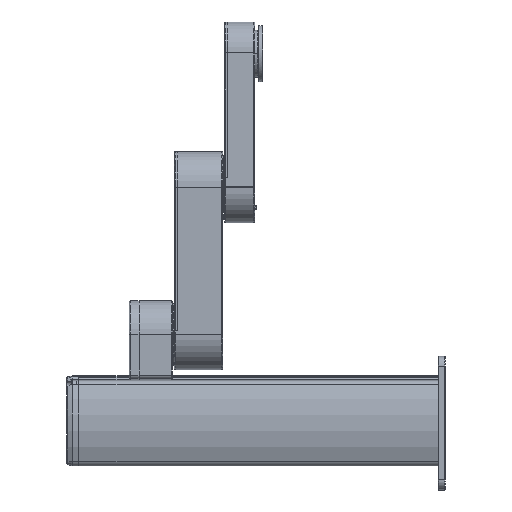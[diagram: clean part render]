
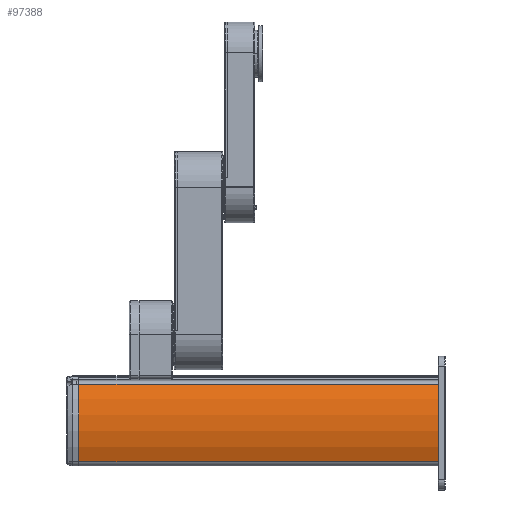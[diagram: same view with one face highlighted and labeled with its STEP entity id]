
A CAD part, left-side view. The second image highlights one B-rep face of the part: STEP entity #97388.
In plain terms, the highlighted cylindrical face has radius 140 mm (diameter 280 mm), a partial arc.
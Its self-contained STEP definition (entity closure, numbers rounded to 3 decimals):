
#476 = EDGE_CURVE ( 'NONE', #102430, #85273, #61994, .T. ) ;
#1791 = FACE_OUTER_BOUND ( 'NONE', #14843, .T. ) ;
#2207 = VERTEX_POINT ( 'NONE', #51725 ) ;
#2491 = VECTOR ( 'NONE', #30887, 1000. ) ;
#4472 = CIRCLE ( 'NONE', #37846, 140. ) ;
#4645 = ORIENTED_EDGE ( 'NONE', *, *, #37424, .T. ) ;
#6228 = CARTESIAN_POINT ( 'NONE',  ( 66., 10., -1. ) ) ;
#10112 = DIRECTION ( 'NONE',  ( 0., 0., -1. ) ) ;
#12896 = ORIENTED_EDGE ( 'NONE', *, *, #476, .F. ) ;
#14843 = EDGE_LOOP ( 'NONE', ( #4645, #12896, #24386, #62672 ) ) ;
#20237 = AXIS2_PLACEMENT_3D ( 'NONE', #6228, #70114, #30701 ) ;
#24386 = ORIENTED_EDGE ( 'NONE', *, *, #34004, .F. ) ;
#24753 = CYLINDRICAL_SURFACE ( 'NONE', #33956, 140. ) ;
#30701 = DIRECTION ( 'NONE',  ( 0., 0., 1. ) ) ;
#30887 = DIRECTION ( 'NONE',  ( 0., -1., 0. ) ) ;
#31089 = CARTESIAN_POINT ( 'NONE',  ( -61.837, 548., -58.077 ) ) ;
#33956 = AXIS2_PLACEMENT_3D ( 'NONE', #81817, #74988, #10112 ) ;
#34004 = EDGE_CURVE ( 'NONE', #40868, #102430, #4472, .T. ) ;
#37424 = EDGE_CURVE ( 'NONE', #2207, #85273, #64974, .T. ) ;
#37846 = AXIS2_PLACEMENT_3D ( 'NONE', #81991, #82478, #43547 ) ;
#40868 = VERTEX_POINT ( 'NONE', #31089 ) ;
#43547 = DIRECTION ( 'NONE',  ( 0., 0., 1. ) ) ;
#47479 = CARTESIAN_POINT ( 'NONE',  ( -60.853, 548., 58.231 ) ) ;
#51136 = CARTESIAN_POINT ( 'NONE',  ( -60.853, 548., 58.231 ) ) ;
#51725 = CARTESIAN_POINT ( 'NONE',  ( -61.837, 10., -58.077 ) ) ;
#61994 = LINE ( 'NONE', #47479, #2491 ) ;
#62672 = ORIENTED_EDGE ( 'NONE', *, *, #88139, .T. ) ;
#64974 = CIRCLE ( 'NONE', #20237, 140. ) ;
#68925 = CARTESIAN_POINT ( 'NONE',  ( -61.837, 548., -58.077 ) ) ;
#70114 = DIRECTION ( 'NONE',  ( 0., 1., 0. ) ) ;
#74988 = DIRECTION ( 'NONE',  ( 0., -1., 0. ) ) ;
#78800 = LINE ( 'NONE', #68925, #80827 ) ;
#80827 = VECTOR ( 'NONE', #100689, 1000. ) ;
#81817 = CARTESIAN_POINT ( 'NONE',  ( 66., 548., -1. ) ) ;
#81991 = CARTESIAN_POINT ( 'NONE',  ( 66., 548., -1. ) ) ;
#82478 = DIRECTION ( 'NONE',  ( 0., 1., 0. ) ) ;
#85273 = VERTEX_POINT ( 'NONE', #95822 ) ;
#88139 = EDGE_CURVE ( 'NONE', #40868, #2207, #78800, .T. ) ;
#95822 = CARTESIAN_POINT ( 'NONE',  ( -60.853, 10., 58.231 ) ) ;
#97388 = ADVANCED_FACE ( 'NONE', ( #1791 ), #24753, .T. ) ;
#100689 = DIRECTION ( 'NONE',  ( 0., -1., 0. ) ) ;
#102430 = VERTEX_POINT ( 'NONE', #51136 ) ;
